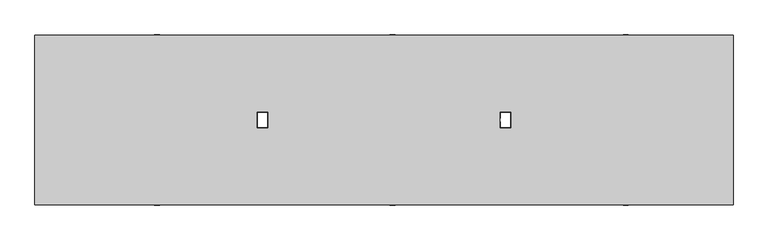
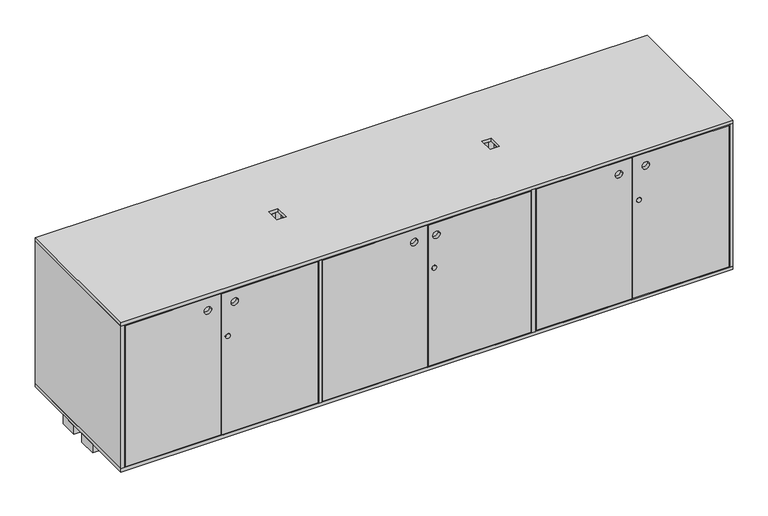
"""IFC4 building model written with IfcOpenShell, lengths in millimetres: furniture geometry, C14 Mueble mostrador 3 modulos Doble frente : C14 Mueble mostrador 3 modulos Doble frente 330cm."""

import ifcopenshell
import ifcopenshell.guid

model = None  # the IFC model being written
_history = None  # IfcOwnerHistory: only IFC2X3 demands one
_inside = {}  # id of a spatial element -> (the spatial element, [elements in it])
_under = {}  # id of a project, library or spatial element -> (it, [spatial elements below it])
_declared = {}  # id of a project -> (the project, [libraries it declares])
_typed = {}  # id of a type object -> (the type object, [elements of that type])
_made_of = {}  # id of a material, layer set ... -> (it, [elements and type objects made of it])


def new_model(schema):
    """Start an empty IFC model of exactly this schema.

    Asked for "IFC4X3", IfcOpenShell would pick the latest addendum, in which some entities
    have other attributes; the version numbers below select the first issue.
    IFC2X3 requires an IfcOwnerHistory on every rooted entity: one is made here for all.
    """
    global model, _history
    if schema == "IFC4X3":
        model = ifcopenshell.file(schema_version=(4, 3, 0, 0))
    else:
        model = ifcopenshell.file(schema=schema)
    _inside.clear()
    _under.clear()
    _declared.clear()
    _typed.clear()
    _made_of.clear()
    _history = None
    if model.schema == "IFC2X3":
        org = make("IfcOrganization", Name="unknown")
        user = make(
            "IfcPersonAndOrganization",
            ThePerson=make("IfcPerson", FamilyName="unknown"),
            TheOrganization=org,
        )
        app = make(
            "IfcApplication",
            ApplicationDeveloper=org,
            Version="unknown",
            ApplicationFullName="unknown",
            ApplicationIdentifier="unknown",
        )
        _history = make(
            "IfcOwnerHistory",
            OwningUser=user,
            OwningApplication=app,
            ChangeAction="ADDED",
            CreationDate=0,
        )
    return model


def make(cls, **values):
    """One entity of the class cls with the attributes given. An attribute that is None is left unset."""
    return model.create_entity(
        cls, **{name: value for name, value in values.items() if value is not None}
    )


def rooted(cls, **values):
    """An entity with a GlobalId (a new one), such as an element, a storey or a relation."""
    return make(cls, GlobalId=ifcopenshell.guid.new(), OwnerHistory=_history, **values)


def si_unit(unit_type, name, prefix=None):
    """IfcSIUnit, for example si_unit("LENGTHUNIT", "METRE", prefix="MILLI")."""
    return make("IfcSIUnit", UnitType=unit_type, Prefix=prefix, Name=name)


def assignment(units):
    """IfcUnitAssignment: the units of a project."""
    return None if units is None else make("IfcUnitAssignment", Units=units)


def point(xyz):
    """IfcCartesianPoint."""
    return None if xyz is None else make("IfcCartesianPoint", Coordinates=xyz)


def direction(xyz):
    """IfcDirection."""
    return None if xyz is None else make("IfcDirection", DirectionRatios=xyz)


def frame(location, z_axis=None, x_axis=None):
    """IfcAxis2Placement3D, a coordinate frame: its origin and axes. An axis left out is left unset."""
    return make(
        "IfcAxis2Placement3D",
        Location=point(location),
        Axis=direction(z_axis),
        RefDirection=direction(x_axis),
    )


def frame_2d(location, x_axis=None):
    """IfcAxis2Placement2D, a coordinate frame in the plane: its origin and x axis."""
    return make(
        "IfcAxis2Placement2D", Location=point(location), RefDirection=direction(x_axis)
    )


def origin():
    """The frame at (0, 0, 0) with its axes left unset."""
    return frame((0.0, 0.0, 0.0))


def origin_with_axes():
    """The frame at (0, 0, 0) with the z axis (0, 0, 1) and the x axis (1, 0, 0) written out."""
    return frame((0.0, 0.0, 0.0), z_axis=(0.0, 0.0, 1.0), x_axis=(1.0, 0.0, 0.0))


def place(relative_to, where):
    """IfcLocalPlacement: puts the frame where relative to a parent placement (None: the world)."""
    return make(
        "IfcLocalPlacement", PlacementRelTo=relative_to, RelativePlacement=where
    )


def context(
    kind, dimensions, precision=None, world=None, true_north=None, identifier=None
):
    """IfcGeometricRepresentationContext, for example the 3D "Model" context."""
    return make(
        "IfcGeometricRepresentationContext",
        ContextIdentifier=identifier,
        ContextType=kind,
        CoordinateSpaceDimension=dimensions,
        Precision=precision,
        WorldCoordinateSystem=world,
        TrueNorth=true_north,
    )


def project(units=None, contexts=None):
    """IfcProject with its units and contexts."""
    return rooted(
        "IfcProject",
        Name="project",
        RepresentationContexts=contexts,
        UnitsInContext=assignment(units),
    )


def spatial(cls, under=None, at=None, **own):
    """A site, building, storey or space (cls), placed at a placement, below another one or the project."""
    s = rooted(cls, ObjectPlacement=at, **own)
    if under is not None:
        _under.setdefault(under.id(), (under, []))[1].append(s)
    return s


def polyline(points):
    """IfcPolyline through the points."""
    return make("IfcPolyline", Points=[point(p) for p in points])


def circle_curve(where, radius):
    """IfcCircle in the frame where."""
    return make("IfcCircle", Position=where, Radius=radius)


def trimmed(basis, trim1, trim2, sense, master):
    """IfcTrimmedCurve: the piece of a basis curve between two trims."""
    return make(
        "IfcTrimmedCurve",
        BasisCurve=basis,
        Trim1=trim1,
        Trim2=trim2,
        SenseAgreement=sense,
        MasterRepresentation=master,
    )


def segment(curve, same_sense, transition):
    """IfcCompositeCurveSegment."""
    return make(
        "IfcCompositeCurveSegment",
        Transition=transition,
        SameSense=same_sense,
        ParentCurve=curve,
    )


def composite_curve(segments, self_intersect=None):
    """IfcCompositeCurve: segments joined end to end."""
    return make("IfcCompositeCurve", Segments=segments, SelfIntersect=self_intersect)


def outline(outer, holes=None, kind="AREA"):
    """IfcArbitraryClosedProfileDef: a profile drawn as a closed curve; with holes, ...WithVoids."""
    if holes is None:
        return make("IfcArbitraryClosedProfileDef", ProfileType=kind, OuterCurve=outer)
    return make(
        "IfcArbitraryProfileDefWithVoids",
        ProfileType=kind,
        OuterCurve=outer,
        InnerCurves=holes,
    )


def extrude(swept, where, along, depth):
    """IfcExtrudedAreaSolid: the profile swept, set in the frame where, extruded along a direction by depth."""
    return make(
        "IfcExtrudedAreaSolid",
        SweptArea=swept,
        Position=where,
        ExtrudedDirection=direction(along),
        Depth=depth,
    )


def shape(context_of_items, identifier, shape_type, items):
    """IfcShapeRepresentation: the items that make up one representation, for example the "Body"."""
    return make(
        "IfcShapeRepresentation",
        ContextOfItems=context_of_items,
        RepresentationIdentifier=identifier,
        RepresentationType=shape_type,
        Items=items,
    )


def source(mapping_origin, context_of_items, identifier, shape_type, items):
    """IfcRepresentationMap: a shape defined once, which mapped items show again and again."""
    return make(
        "IfcRepresentationMap",
        MappingOrigin=mapping_origin,
        MappedRepresentation=shape(context_of_items, identifier, shape_type, items),
    )


def transform(
    local_origin,
    x_axis=None,
    y_axis=None,
    z_axis=None,
    scale=None,
    scale2=None,
    scale3=None,
    uniform=True,
):
    """IfcCartesianTransformationOperator3D, or its non-uniform kind. x_axis, y_axis, z_axis: its Axis1, 2, 3."""
    if uniform:
        return make(
            "IfcCartesianTransformationOperator3D",
            Axis1=direction(x_axis),
            Axis2=direction(y_axis),
            LocalOrigin=point(local_origin),
            Scale=scale,
            Axis3=direction(z_axis),
        )
    return make(
        "IfcCartesianTransformationOperator3DnonUniform",
        Axis1=direction(x_axis),
        Axis2=direction(y_axis),
        LocalOrigin=point(local_origin),
        Scale=scale,
        Axis3=direction(z_axis),
        Scale2=scale2,
        Scale3=scale3,
    )


def mapped(mapping_source, mapping_target):
    """IfcMappedItem: shows the shape of a source again, moved by a transform."""
    return make(
        "IfcMappedItem", MappingSource=mapping_source, MappingTarget=mapping_target
    )


def made_of(thing, what):
    """Note that an element or type object is made of a material, layer set ...; save() writes the relation."""
    if what is not None:
        _made_of.setdefault(what.id(), (what, []))[1].append(thing)
    return thing


def element(
    cls,
    number,
    at=None,
    inside=None,
    cuts=None,
    type_object=None,
    material=None,
    context=None,
    identifier="Body",
    shape_type=None,
    held_by="IfcProductDefinitionShape",
    body=None,
    shapes=None,
    **own,
):
    """One element of the class cls, such as IfcWall. Its Tag is "e" and its number.

    at: its placement. inside: the storey or other place that contains it. cuts: it is an
    opening in that element (IfcRelVoidsElement). A single representation is given by context,
    identifier, shape_type and body (its items); several are given by shapes. held_by: the class
    of the entity that holds the representations. save() writes the other relations.
    """
    e = rooted(cls, Tag="e%d" % number, ObjectPlacement=at, **own)
    if body is not None:
        shapes = [shape(context, identifier, shape_type, body)]
    if shapes is not None:
        e.Representation = make(held_by, Representations=shapes)
    if inside is not None:
        _inside.setdefault(inside.id(), (inside, []))[1].append(e)
    if cuts is not None:
        rooted(
            "IfcRelVoidsElement", RelatingBuildingElement=cuts, RelatedOpeningElement=e
        )
    if type_object is not None:
        _typed.setdefault(type_object.id(), (type_object, []))[1].append(e)
    return made_of(e, material)


def aggregate(whole, parts):
    """IfcRelAggregates: a whole, such as a stair, and the parts it consists of."""
    return rooted("IfcRelAggregates", RelatingObject=whole, RelatedObjects=parts)


def save(model, path):
    """Write the relations noted so far, then the file.

    IfcRelAggregates (storeys below a building ...), IfcRelContainedInSpatialStructure (elements
    in a storey), IfcRelDefinesByType, IfcRelAssociatesMaterial and IfcRelDeclares: one each for
    every whole, place, type object, material and project.
    """
    for whole, parts in _under.values():
        aggregate(whole, parts)
    for where, things in _inside.values():
        rooted(
            "IfcRelContainedInSpatialStructure",
            RelatedElements=things,
            RelatingStructure=where,
        )
    for kind, things in _typed.values():
        rooted("IfcRelDefinesByType", RelatedObjects=things, RelatingType=kind)
    for what, things in _made_of.values():
        rooted("IfcRelAssociatesMaterial", RelatedObjects=things, RelatingMaterial=what)
    for by, libraries in _declared.values():
        rooted("IfcRelDeclares", RelatingContext=by, RelatedDefinitions=libraries)
    model.write(path)


def furniture_466d98a2(model_context):
    return source(origin(), model_context, "Body", "SweptSolid", [
        extrude(outline(composite_curve([segment(trimmed(circle_curve(frame_2d((624.0, 1187.7003264)), 12.5), [point((624.0, 1175.2003264))], [point((624.0, 1200.2003264))], False, "CARTESIAN"), True, "CONTINUOUS"), segment(trimmed(circle_curve(frame_2d((624.0, 1187.7003264)), 12.5), [point((624.0, 1200.2003264))], [point((624.0, 1175.2003264))], False, "CARTESIAN"), True, "CONTINUOUS")], self_intersect=False)), frame((0.0, 382.0, 0.0), z_axis=(0.0, 1.0, 0.0), x_axis=(0.0, 0.0, 1.0)), (0.0, 0.0, 1.0), 20.0),
        extrude(outline(composite_curve([segment(trimmed(circle_curve(frame_2d((624.0, 84.2003264)), 12.5), [point((624.0, 71.7003264))], [point((624.0, 96.7003264))], False, "CARTESIAN"), True, "CONTINUOUS"), segment(trimmed(circle_curve(frame_2d((624.0, 84.2003264)), 12.5), [point((624.0, 96.7003264))], [point((624.0, 71.7003264))], False, "CARTESIAN"), True, "CONTINUOUS")], self_intersect=False)), frame((0.0, 382.0, 0.0), z_axis=(0.0, 1.0, 0.0), x_axis=(0.0, 0.0, 1.0)), (0.0, 0.0, 1.0), 20.0),
        extrude(outline(composite_curve([segment(trimmed(circle_curve(frame_2d((624.0, -1028.2996736)), 12.5), [point((624.0, -1040.7996736))], [point((624.0, -1015.7996736))], False, "CARTESIAN"), True, "CONTINUOUS"), segment(trimmed(circle_curve(frame_2d((624.0, -1028.2996736)), 12.5), [point((624.0, -1015.7996736))], [point((624.0, -1040.7996736))], False, "CARTESIAN"), True, "CONTINUOUS")], self_intersect=False)), frame((0.0, 382.0, 0.0), z_axis=(0.0, 1.0, 0.0), x_axis=(0.0, 0.0, 1.0)), (0.0, 0.0, 1.0), 20.0),
        extrude(outline(composite_curve([segment(trimmed(circle_curve(frame_2d((624.0, 1187.7003264)), 12.5), [point((624.0, 1175.2003264))], [point((624.0, 1200.2003264))], False, "CARTESIAN"), True, "CONTINUOUS"), segment(trimmed(circle_curve(frame_2d((624.0, 1187.7003264)), 12.5), [point((624.0, 1200.2003264))], [point((624.0, 1175.2003264))], False, "CARTESIAN"), True, "CONTINUOUS")], self_intersect=False)), frame((0.0, -402.0, 0.0), z_axis=(0.0, 1.0, 0.0), x_axis=(0.0, 0.0, 1.0)), (0.0, 0.0, 1.0), 20.0),
        extrude(outline(composite_curve([segment(trimmed(circle_curve(frame_2d((624.0, 84.2003264)), 12.5), [point((624.0, 71.7003264))], [point((624.0, 96.7003264))], False, "CARTESIAN"), True, "CONTINUOUS"), segment(trimmed(circle_curve(frame_2d((624.0, 84.2003264)), 12.5), [point((624.0, 96.7003264))], [point((624.0, 71.7003264))], False, "CARTESIAN"), True, "CONTINUOUS")], self_intersect=False)), frame((0.0, -402.0, 0.0), z_axis=(0.0, 1.0, 0.0), x_axis=(0.0, 0.0, 1.0)), (0.0, 0.0, 1.0), 20.0),
        extrude(outline(composite_curve([segment(trimmed(circle_curve(frame_2d((624.0, -1028.2996736)), 12.5), [point((624.0, -1040.7996736))], [point((624.0, -1015.7996736))], False, "CARTESIAN"), True, "CONTINUOUS"), segment(trimmed(circle_curve(frame_2d((624.0, -1028.2996736)), 12.5), [point((624.0, -1015.7996736))], [point((624.0, -1040.7996736))], False, "CARTESIAN"), True, "CONTINUOUS")], self_intersect=False)), frame((0.0, -402.0, 0.0), z_axis=(0.0, 1.0, 0.0), x_axis=(0.0, 0.0, 1.0)), (0.0, 0.0, 1.0), 20.0),
        extrude(outline(polyline([(1694.7003264, 137.5), (1694.7003264, 37.5), (1644.7003264, 37.5), (1644.7003264, 87.5), (-1555.2996736, 87.5), (-1555.2996736, 37.5), (-1605.2996736, 37.5), (-1605.2996736, 137.5), (1694.7003264, 137.5)])), origin_with_axes(), (0.0, 0.0, 1.0), 50.0),
        extrude(outline(polyline([(877.0, 1155.2003264), (73.0, 1155.2003264), (73.0, 1671.7003264), (877.0, 1671.7003264), (877.0, 1155.2003264)]), holes=[composite_curve([segment(trimmed(circle_curve(frame_2d((807.0, 1225.2003264)), 20.0), [point((807.0, 1245.2003264))], [point((807.0, 1205.2003264))], True, "CARTESIAN"), True, "CONTINUOUS"), segment(trimmed(circle_curve(frame_2d((807.0, 1225.2003264)), 20.0), [point((807.0, 1205.2003264))], [point((807.0, 1245.2003264))], True, "CARTESIAN"), True, "CONTINUOUS")], self_intersect=False)]), frame((0.0, 382.0, 0.0), z_axis=(0.0, 1.0, 0.0), x_axis=(0.0, 0.0, 1.0)), (0.0, 0.0, 1.0), 18.0),
        extrude(outline(polyline([(877.0, 1150.2003264), (877.0, 633.7003264), (73.0, 633.7003264), (73.0, 1150.2003264), (877.0, 1150.2003264)]), holes=[composite_curve([segment(trimmed(circle_curve(frame_2d((807.0, 1080.2003264)), 20.0), [point((807.0, 1060.2003264))], [point((807.0, 1100.2003264))], True, "CARTESIAN"), True, "CONTINUOUS"), segment(trimmed(circle_curve(frame_2d((807.0, 1080.2003264)), 20.0), [point((807.0, 1100.2003264))], [point((807.0, 1060.2003264))], True, "CARTESIAN"), True, "CONTINUOUS")], self_intersect=False)]), frame((0.0, 382.0, 0.0), z_axis=(0.0, 1.0, 0.0), x_axis=(0.0, 0.0, 1.0)), (0.0, 0.0, 1.0), 18.0),
        extrude(outline(polyline([(877.0, 51.7003264), (73.0, 51.7003264), (73.0, 605.7003264), (877.0, 605.7003264), (877.0, 51.7003264)]), holes=[composite_curve([segment(trimmed(circle_curve(frame_2d((807.0, 96.3253264)), 20.0), [point((807.0, 116.3253264))], [point((807.0, 76.3253264))], True, "CARTESIAN"), True, "CONTINUOUS"), segment(trimmed(circle_curve(frame_2d((807.0, 96.3253264)), 20.0), [point((807.0, 76.3253264))], [point((807.0, 116.3253264))], True, "CARTESIAN"), True, "CONTINUOUS")], self_intersect=False)]), frame((0.0, 382.0, 0.0), z_axis=(0.0, 1.0, 0.0), x_axis=(0.0, 0.0, 1.0)), (0.0, 0.0, 1.0), 18.0),
        extrude(outline(polyline([(877.0, 46.7003264), (877.0, -516.2996736), (73.0, -516.2996736), (73.0, 46.7003264), (877.0, 46.7003264)]), holes=[composite_curve([segment(trimmed(circle_curve(frame_2d((807.0, -23.2996736)), 20.0), [point((807.0, -43.2996736))], [point((807.0, -3.2996736))], True, "CARTESIAN"), True, "CONTINUOUS"), segment(trimmed(circle_curve(frame_2d((807.0, -23.2996736)), 20.0), [point((807.0, -3.2996736))], [point((807.0, -43.2996736))], True, "CARTESIAN"), True, "CONTINUOUS")], self_intersect=False)]), frame((0.0, 382.0, 0.0), z_axis=(0.0, 1.0, 0.0), x_axis=(0.0, 0.0, 1.0)), (0.0, 0.0, 1.0), 18.0),
        extrude(outline(polyline([(877.0, -1060.7996736), (73.0, -1060.7996736), (73.0, -544.2996736), (877.0, -544.2996736), (877.0, -1060.7996736)]), holes=[composite_curve([segment(trimmed(circle_curve(frame_2d((807.0, -990.7996736)), 20.0), [point((807.0, -970.7996736))], [point((807.0, -1010.7996736))], True, "CARTESIAN"), True, "CONTINUOUS"), segment(trimmed(circle_curve(frame_2d((807.0, -990.7996736)), 20.0), [point((807.0, -1010.7996736))], [point((807.0, -970.7996736))], True, "CARTESIAN"), True, "CONTINUOUS")], self_intersect=False)]), frame((0.0, 382.0, 0.0), z_axis=(0.0, 1.0, 0.0), x_axis=(0.0, 0.0, 1.0)), (0.0, 0.0, 1.0), 18.0),
        extrude(outline(polyline([(877.0, -1065.7996736), (877.0, -1582.2996736), (73.0, -1582.2996736), (73.0, -1065.7996736), (877.0, -1065.7996736)]), holes=[composite_curve([segment(trimmed(circle_curve(frame_2d((807.0, -1135.7996736)), 20.0), [point((807.0, -1155.7996736))], [point((807.0, -1115.7996736))], True, "CARTESIAN"), True, "CONTINUOUS"), segment(trimmed(circle_curve(frame_2d((807.0, -1135.7996736)), 20.0), [point((807.0, -1115.7996736))], [point((807.0, -1155.7996736))], True, "CARTESIAN"), True, "CONTINUOUS")], self_intersect=False)]), frame((0.0, 382.0, 0.0), z_axis=(0.0, 1.0, 0.0), x_axis=(0.0, 0.0, 1.0)), (0.0, 0.0, 1.0), 18.0),
        extrude(outline(polyline([(610.7003264, 37.5), (594.7003264, 37.5), (594.7003264, 382.0), (610.7003264, 382.0), (610.7003264, 37.5)])), frame((0.0, 0.0, 428.0), z_axis=(0.0, 0.0, 1.0), x_axis=(1.0, 0.0, 0.0)), (0.0, 0.0, 1.0), 20.0),
        extrude(outline(polyline([(-505.2996736, 29.0), (594.7003264, 29.0), (594.7003264, 9.0), (-505.2996736, 9.0), (-505.2996736, 29.0)])), frame((0.0, 0.0, 428.0), z_axis=(0.0, 0.0, 1.0), x_axis=(1.0, 0.0, 0.0)), (0.0, 0.0, 1.0), 20.0),
        extrude(outline(polyline([(-521.2996736, 37.5), (-521.2996736, 382.0), (-501.2996736, 382.0), (-501.2996736, 37.5), (-521.2996736, 37.5)])), frame((0.0, 0.0, 428.0), z_axis=(0.0, 0.0, 1.0), x_axis=(1.0, 0.0, 0.0)), (0.0, 0.0, 1.0), 20.0),
        extrude(outline(polyline([(1676.7003264, 9.0), (644.7003264, 9.0), (644.7003264, 29.0), (1656.7003264, 29.0), (1656.7003264, 382.0), (1676.7003264, 382.0), (1676.7003264, 9.0)])), frame((0.0, 0.0, 428.0), z_axis=(0.0, 0.0, 1.0), x_axis=(1.0, 0.0, 0.0)), (0.0, 0.0, 1.0), 20.0),
        extrude(outline(polyline([(628.7003264, 382.0), (644.7003264, 382.0), (644.7003264, 37.5), (628.7003264, 37.5), (628.7003264, 382.0)])), frame((0.0, 0.0, 428.0), z_axis=(0.0, 0.0, 1.0), x_axis=(1.0, 0.0, 0.0)), (0.0, 0.0, 1.0), 20.0),
        extrude(outline(polyline([(-539.2996736, 382.0), (-539.2996736, 37.5), (-559.2996736, 37.5), (-559.2996736, 382.0), (-539.2996736, 382.0)])), frame((0.0, 0.0, 428.0), z_axis=(0.0, 0.0, 1.0), x_axis=(1.0, 0.0, 0.0)), (0.0, 0.0, 1.0), 20.0),
        extrude(outline(polyline([(-1587.2996736, 9.0), (-1587.2996736, 382.0), (-1567.2996736, 382.0), (-1567.2996736, 29.0), (-555.2996736, 29.0), (-555.2996736, 9.0), (-1587.2996736, 9.0)])), frame((0.0, 0.0, 428.0), z_axis=(0.0, 0.0, 1.0), x_axis=(1.0, 0.0, 0.0)), (0.0, 0.0, 1.0), 20.0),
        extrude(outline(polyline([(594.7003264, 9.0), (-505.2996736, 9.0), (-505.2996736, 37.5), (-521.2996736, 37.5), (-521.2996736, 382.0), (610.7003264, 382.0), (610.7003264, 37.5), (594.7003264, 37.5), (594.7003264, 9.0)])), frame((0.0, 0.0, 448.0), z_axis=(0.0, 0.0, 1.0), x_axis=(1.0, 0.0, 0.0)), (0.0, 0.0, 1.0), 18.0),
        extrude(outline(polyline([(1676.7003264, 9.0), (644.7003264, 9.0), (644.7003264, 37.5), (628.7003264, 37.5), (628.7003264, 382.0), (1676.7003264, 382.0), (1676.7003264, 9.0)])), frame((0.0, 0.0, 448.0), z_axis=(0.0, 0.0, 1.0), x_axis=(1.0, 0.0, 0.0)), (0.0, 0.0, 1.0), 18.0),
        extrude(outline(polyline([(-555.2996736, 9.0), (-1587.2996736, 9.0), (-1587.2996736, 382.0), (-539.2996736, 382.0), (-539.2996736, 37.5), (-555.2996736, 37.5), (-555.2996736, 9.0)])), frame((0.0, 0.0, 448.0), z_axis=(0.0, 0.0, 1.0), x_axis=(1.0, 0.0, 0.0)), (0.0, 0.0, 1.0), 18.0),
        extrude(outline(polyline([(-1587.2996736, 9.0), (-555.2996736, 9.0), (-555.2996736, -9.0), (-1587.2996736, -9.0), (-1587.2996736, 9.0)])), frame((0.0, 0.0, 68.0), z_axis=(0.0, 0.0, 1.0), x_axis=(1.0, 0.0, 0.0)), (0.0, 0.0, 1.0), 814.0),
        extrude(outline(polyline([(644.7003264, 9.0), (1676.7003264, 9.0), (1676.7003264, -9.0), (644.7003264, -9.0), (644.7003264, 9.0)])), frame((0.0, 0.0, 68.0), z_axis=(0.0, 0.0, 1.0), x_axis=(1.0, 0.0, 0.0)), (0.0, 0.0, 1.0), 814.0),
        extrude(outline(polyline([(-505.2996736, 9.0), (589.7003264, 9.0), (589.7003264, -9.0), (-505.2996736, -9.0), (-505.2996736, 9.0)])), frame((0.0, 0.0, 68.0), z_axis=(0.0, 0.0, 1.0), x_axis=(1.0, 0.0, 0.0)), (0.0, 0.0, 1.0), 814.0),
        extrude(outline(polyline([(1694.7003264, -137.5), (-1605.2996736, -137.5), (-1605.2996736, -37.5), (-1555.2996736, -37.5), (-1555.2996736, -87.5), (1644.7003264, -87.5), (1644.7003264, -37.5), (1694.7003264, -37.5), (1694.7003264, -137.5)])), origin_with_axes(), (0.0, 0.0, 1.0), 50.0),
        extrude(outline(polyline([(877.0, 1155.2003264), (73.0, 1155.2003264), (73.0, 1671.7003264), (877.0, 1671.7003264), (877.0, 1155.2003264)]), holes=[composite_curve([segment(trimmed(circle_curve(frame_2d((807.0, 1225.2003264)), 20.0), [point((807.0, 1245.2003264))], [point((807.0, 1205.2003264))], True, "CARTESIAN"), True, "CONTINUOUS"), segment(trimmed(circle_curve(frame_2d((807.0, 1225.2003264)), 20.0), [point((807.0, 1205.2003264))], [point((807.0, 1245.2003264))], True, "CARTESIAN"), True, "CONTINUOUS")], self_intersect=False)]), frame((0.0, -400.0, 0.0), z_axis=(0.0, 1.0, 0.0), x_axis=(0.0, 0.0, 1.0)), (0.0, 0.0, 1.0), 18.0),
        extrude(outline(polyline([(877.0, 1150.2003264), (877.0, 633.7003264), (73.0, 633.7003264), (73.0, 1150.2003264), (877.0, 1150.2003264)]), holes=[composite_curve([segment(trimmed(circle_curve(frame_2d((807.0, 1080.2003264)), 20.0), [point((807.0, 1060.2003264))], [point((807.0, 1100.2003264))], True, "CARTESIAN"), True, "CONTINUOUS"), segment(trimmed(circle_curve(frame_2d((807.0, 1080.2003264)), 20.0), [point((807.0, 1100.2003264))], [point((807.0, 1060.2003264))], True, "CARTESIAN"), True, "CONTINUOUS")], self_intersect=False)]), frame((0.0, -400.0, 0.0), z_axis=(0.0, 1.0, 0.0), x_axis=(0.0, 0.0, 1.0)), (0.0, 0.0, 1.0), 18.0),
        extrude(outline(polyline([(877.0, 51.7003264), (73.0, 51.7003264), (73.0, 605.7003264), (877.0, 605.7003264), (877.0, 51.7003264)]), holes=[composite_curve([segment(trimmed(circle_curve(frame_2d((807.0, 96.3253264)), 20.0), [point((807.0, 116.3253264))], [point((807.0, 76.3253264))], True, "CARTESIAN"), True, "CONTINUOUS"), segment(trimmed(circle_curve(frame_2d((807.0, 96.3253264)), 20.0), [point((807.0, 76.3253264))], [point((807.0, 116.3253264))], True, "CARTESIAN"), True, "CONTINUOUS")], self_intersect=False)]), frame((0.0, -400.0, 0.0), z_axis=(0.0, 1.0, 0.0), x_axis=(0.0, 0.0, 1.0)), (0.0, 0.0, 1.0), 18.0),
        extrude(outline(polyline([(877.0, 46.7003264), (877.0, -516.2996736), (73.0, -516.2996736), (73.0, 46.7003264), (877.0, 46.7003264)]), holes=[composite_curve([segment(trimmed(circle_curve(frame_2d((807.0, -23.2996736)), 20.0), [point((807.0, -43.2996736))], [point((807.0, -3.2996736))], True, "CARTESIAN"), True, "CONTINUOUS"), segment(trimmed(circle_curve(frame_2d((807.0, -23.2996736)), 20.0), [point((807.0, -3.2996736))], [point((807.0, -43.2996736))], True, "CARTESIAN"), True, "CONTINUOUS")], self_intersect=False)]), frame((0.0, -400.0, 0.0), z_axis=(0.0, 1.0, 0.0), x_axis=(0.0, 0.0, 1.0)), (0.0, 0.0, 1.0), 18.0),
        extrude(outline(polyline([(877.0, -1060.7996736), (73.0, -1060.7996736), (73.0, -544.2996736), (877.0, -544.2996736), (877.0, -1060.7996736)]), holes=[composite_curve([segment(trimmed(circle_curve(frame_2d((807.0, -990.7996736)), 20.0), [point((807.0, -970.7996736))], [point((807.0, -1010.7996736))], True, "CARTESIAN"), True, "CONTINUOUS"), segment(trimmed(circle_curve(frame_2d((807.0, -990.7996736)), 20.0), [point((807.0, -1010.7996736))], [point((807.0, -970.7996736))], True, "CARTESIAN"), True, "CONTINUOUS")], self_intersect=False)]), frame((0.0, -400.0, 0.0), z_axis=(0.0, 1.0, 0.0), x_axis=(0.0, 0.0, 1.0)), (0.0, 0.0, 1.0), 18.0),
        extrude(outline(polyline([(877.0, -1065.7996736), (877.0, -1582.2996736), (73.0, -1582.2996736), (73.0, -1065.7996736), (877.0, -1065.7996736)]), holes=[composite_curve([segment(trimmed(circle_curve(frame_2d((807.0, -1135.7996736)), 20.0), [point((807.0, -1155.7996736))], [point((807.0, -1115.7996736))], True, "CARTESIAN"), True, "CONTINUOUS"), segment(trimmed(circle_curve(frame_2d((807.0, -1135.7996736)), 20.0), [point((807.0, -1115.7996736))], [point((807.0, -1155.7996736))], True, "CARTESIAN"), True, "CONTINUOUS")], self_intersect=False)]), frame((0.0, -400.0, 0.0), z_axis=(0.0, 1.0, 0.0), x_axis=(0.0, 0.0, 1.0)), (0.0, 0.0, 1.0), 18.0),
        extrude(outline(polyline([(-505.2996736, -29.0), (-505.2996736, -9.0), (594.7003264, -9.0), (594.7003264, -29.0), (-505.2996736, -29.0)])), frame((0.0, 0.0, 428.0), z_axis=(0.0, 0.0, 1.0), x_axis=(1.0, 0.0, 0.0)), (0.0, 0.0, 1.0), 20.0),
        extrude(outline(polyline([(-521.2996736, -37.5), (-501.2996736, -37.5), (-501.2996736, -382.0), (-521.2996736, -382.0), (-521.2996736, -37.5)])), frame((0.0, 0.0, 428.0), z_axis=(0.0, 0.0, 1.0), x_axis=(1.0, 0.0, 0.0)), (0.0, 0.0, 1.0), 20.0),
        extrude(outline(polyline([(610.7003264, -37.5), (610.7003264, -382.0), (594.7003264, -382.0), (594.7003264, -37.5), (610.7003264, -37.5)])), frame((0.0, 0.0, 428.0), z_axis=(0.0, 0.0, 1.0), x_axis=(1.0, 0.0, 0.0)), (0.0, 0.0, 1.0), 20.0),
        extrude(outline(polyline([(628.7003264, -382.0), (628.7003264, -37.5), (644.7003264, -37.5), (644.7003264, -382.0), (628.7003264, -382.0)])), frame((0.0, 0.0, 428.0), z_axis=(0.0, 0.0, 1.0), x_axis=(1.0, 0.0, 0.0)), (0.0, 0.0, 1.0), 20.0),
        extrude(outline(polyline([(1676.7003264, -9.0), (1676.7003264, -382.0), (1656.7003264, -382.0), (1656.7003264, -29.0), (644.7003264, -29.0), (644.7003264, -9.0), (1676.7003264, -9.0)])), frame((0.0, 0.0, 428.0), z_axis=(0.0, 0.0, 1.0), x_axis=(1.0, 0.0, 0.0)), (0.0, 0.0, 1.0), 20.0),
        extrude(outline(polyline([(-1587.2996736, -9.0), (-555.2996736, -9.0), (-555.2996736, -29.0), (-1567.2996736, -29.0), (-1567.2996736, -382.0), (-1587.2996736, -382.0), (-1587.2996736, -9.0)])), frame((0.0, 0.0, 428.0), z_axis=(0.0, 0.0, 1.0), x_axis=(1.0, 0.0, 0.0)), (0.0, 0.0, 1.0), 20.0),
        extrude(outline(polyline([(-539.2996736, -382.0), (-559.2996736, -382.0), (-559.2996736, -37.5), (-539.2996736, -37.5), (-539.2996736, -382.0)])), frame((0.0, 0.0, 428.0), z_axis=(0.0, 0.0, 1.0), x_axis=(1.0, 0.0, 0.0)), (0.0, 0.0, 1.0), 20.0),
        extrude(outline(polyline([(594.7003264, -9.0), (594.7003264, -37.5), (610.7003264, -37.5), (610.7003264, -382.0), (-521.2996736, -382.0), (-521.2996736, -37.5), (-505.2996736, -37.5), (-505.2996736, -9.0), (594.7003264, -9.0)])), frame((0.0, 0.0, 448.0), z_axis=(0.0, 0.0, 1.0), x_axis=(1.0, 0.0, 0.0)), (0.0, 0.0, 1.0), 18.0),
        extrude(outline(polyline([(1676.7003264, -9.0), (1676.7003264, -382.0), (628.7003264, -382.0), (628.7003264, -37.5), (644.7003264, -37.5), (644.7003264, -9.0), (1676.7003264, -9.0)])), frame((0.0, 0.0, 448.0), z_axis=(0.0, 0.0, 1.0), x_axis=(1.0, 0.0, 0.0)), (0.0, 0.0, 1.0), 18.0),
        extrude(outline(polyline([(-555.2996736, -9.0), (-555.2996736, -37.5), (-539.2996736, -37.5), (-539.2996736, -382.0), (-1587.2996736, -382.0), (-1587.2996736, -9.0), (-555.2996736, -9.0)])), frame((0.0, 0.0, 448.0), z_axis=(0.0, 0.0, 1.0), x_axis=(1.0, 0.0, 0.0)), (0.0, 0.0, 1.0), 18.0),
        extrude(outline(polyline([(-521.2996736, 382.0), (-521.2996736, 37.5), (-539.2996736, 37.5), (-539.2996736, 382.0), (-521.2996736, 382.0)])), frame((0.0, 0.0, 68.0), z_axis=(0.0, 0.0, 1.0), x_axis=(1.0, 0.0, 0.0)), (0.0, 0.0, 1.0), 814.0),
        extrude(outline(polyline([(-539.2996736, -37.5), (-521.2996736, -37.5), (-521.2996736, -400.0), (-539.2996736, -400.0), (-539.2996736, -37.5)])), frame((0.0, 0.0, 68.0), z_axis=(0.0, 0.0, 1.0), x_axis=(1.0, 0.0, 0.0)), (0.0, 0.0, 1.0), 814.0),
        extrude(outline(polyline([(628.7003264, 382.0), (628.7003264, 37.5), (610.7003264, 37.5), (610.7003264, 382.0), (628.7003264, 382.0)])), frame((0.0, 0.0, 68.0), z_axis=(0.0, 0.0, 1.0), x_axis=(1.0, 0.0, 0.0)), (0.0, 0.0, 1.0), 814.0),
        extrude(outline(polyline([(610.7003264, -37.5), (628.7003264, -37.5), (628.7003264, -400.0), (610.7003264, -400.0), (610.7003264, -37.5)])), frame((0.0, 0.0, 68.0), z_axis=(0.0, 0.0, 1.0), x_axis=(1.0, 0.0, 0.0)), (0.0, 0.0, 1.0), 814.0),
        extrude(outline(polyline([(1694.7003264, 400.0), (1694.7003264, -400.0), (-1605.2996736, -400.0), (-1605.2996736, 400.0), (1694.7003264, 400.0)]), holes=[polyline([(-505.2996736, 37.5), (-555.2996736, 37.5), (-555.2996736, -37.5), (-505.2996736, -37.5), (-505.2996736, 37.5)]), polyline([(644.7003264, 37.5), (594.7003264, 37.5), (594.7003264, -37.5), (644.7003264, -37.5), (644.7003264, 37.5)])]), frame((0.0, 0.0, 882.0), z_axis=(0.0, 0.0, 1.0), x_axis=(1.0, 0.0, 0.0)), (0.0, 0.0, 1.0), 18.0),
        extrude(outline(polyline([(1694.7003264, 400.0), (1694.7003264, -400.0), (-1605.2996736, -400.0), (-1605.2996736, 400.0), (1694.7003264, 400.0)]), holes=[polyline([(-505.2996736, 37.5), (-555.2996736, 37.5), (-555.2996736, -37.5), (-505.2996736, -37.5), (-505.2996736, 37.5)]), polyline([(644.7003264, 37.5), (594.7003264, 37.5), (594.7003264, -37.5), (644.7003264, -37.5), (644.7003264, 37.5)])]), frame((0.0, 0.0, 50.0), z_axis=(0.0, 0.0, 1.0), x_axis=(1.0, 0.0, 0.0)), (0.0, 0.0, 1.0), 18.0),
        extrude(outline(polyline([(-1587.2996736, -400.0), (-1605.2996736, -400.0), (-1605.2996736, 400.0), (-1587.2996736, 400.0), (-1587.2996736, -400.0)])), frame((0.0, 0.0, 68.0), z_axis=(0.0, 0.0, 1.0), x_axis=(1.0, 0.0, 0.0)), (0.0, 0.0, 1.0), 814.0),
        extrude(outline(polyline([(1694.7003264, -400.0), (1676.7003264, -400.0), (1676.7003264, 400.0), (1694.7003264, 400.0), (1694.7003264, -400.0)])), frame((0.0, 0.0, 68.0), z_axis=(0.0, 0.0, 1.0), x_axis=(1.0, 0.0, 0.0)), (0.0, 0.0, 1.0), 814.0),
    ])


if __name__ == "__main__":
    model = new_model("IFC4")
    model_context = context("Model", 3, world=origin())
    ifc_project = project(units=[si_unit("LENGTHUNIT", "METRE", prefix="MILLI")], contexts=[model_context])
    site = spatial("IfcSite", under=ifc_project)
    building = spatial("IfcBuilding", under=site)
    placement = place(None, origin())
    furniture_shape = furniture_466d98a2(model_context)
    element("IfcFurniture", 1, ObjectType="C14 Mueble mostrador 3 modulos Doble frente : C14 Mueble mostrador 3 modulos Doble frente 330cm", at=placement, inside=building, context=model_context, shape_type="MappedRepresentation", body=[
        mapped(furniture_shape, transform((0.0, 0.0, 0.0), x_axis=(1.0, 0.0, 0.0), y_axis=(0.0, 1.0, 0.0), z_axis=(0.0, 0.0, 1.0))),
    ])
    save(model, "model.ifc")
